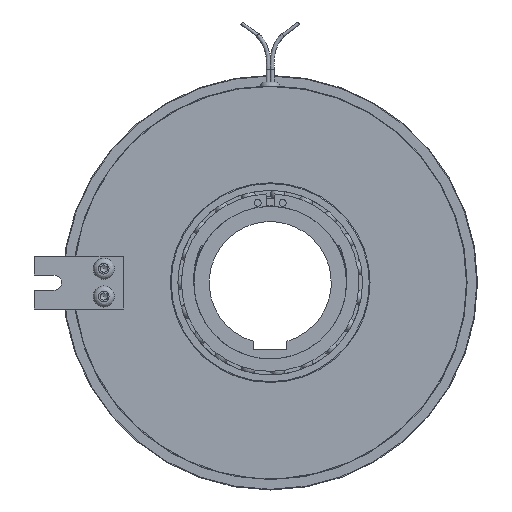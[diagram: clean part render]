
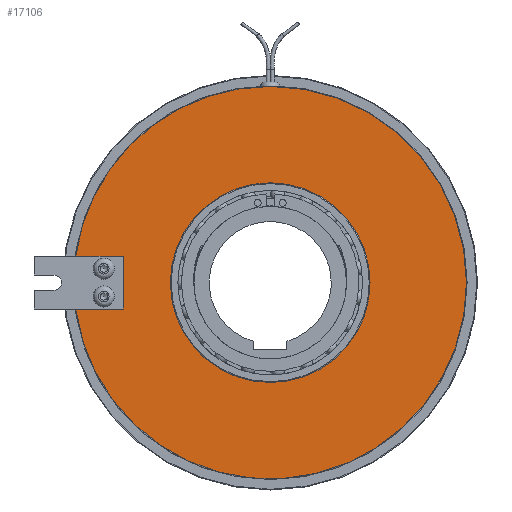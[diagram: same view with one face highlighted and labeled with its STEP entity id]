
A CAD part, left-side view. The second image highlights one B-rep face of the part: STEP entity #17106.
In plain terms, the highlighted planar face has unit normal (-1, 0, 0).
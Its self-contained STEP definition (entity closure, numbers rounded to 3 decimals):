
#1404=FACE_BOUND('',#3259,.T.);
#1577=PLANE('',#19032);
#2224=FACE_OUTER_BOUND('',#3258,.T.);
#3258=EDGE_LOOP('',(#14624,#14625,#14626,#14627,#14628,#14629));
#3259=EDGE_LOOP('',(#14630,#14631));
#3547=CIRCLE('',#17369,70.75);
#3550=CIRCLE('',#17372,70.75);
#4642=CIRCLE('',#19002,36.);
#4643=CIRCLE('',#19003,36.);
#4660=CIRCLE('',#19031,70.75);
#5176=LINE('',#33806,#5619);
#5193=LINE('',#33843,#5636);
#5196=LINE('',#33847,#5639);
#5619=VECTOR('',#22283,10.);
#5636=VECTOR('',#22316,10.);
#5639=VECTOR('',#22321,10.);
#5883=VERTEX_POINT('',#24663);
#5884=VERTEX_POINT('',#24665);
#5886=VERTEX_POINT('',#24669);
#5887=VERTEX_POINT('',#24671);
#6999=VERTEX_POINT('',#33805);
#7011=VERTEX_POINT('',#33841);
#7445=VERTEX_POINT('',#39016);
#7446=VERTEX_POINT('',#39017);
#7824=EDGE_CURVE('',#5884,#5883,#3547,.T.);
#7827=EDGE_CURVE('',#5887,#5886,#3550,.T.);
#9321=EDGE_CURVE('',#6999,#5884,#5176,.T.);
#9340=EDGE_CURVE('',#5886,#7011,#5193,.T.);
#9343=EDGE_CURVE('',#7011,#6999,#5196,.T.);
#9912=EDGE_CURVE('',#7445,#7446,#4642,.T.);
#9914=EDGE_CURVE('',#7446,#7445,#4643,.T.);
#9936=EDGE_CURVE('',#5883,#5887,#4660,.T.);
#14624=ORIENTED_EDGE('',*,*,#9321,.T.);
#14625=ORIENTED_EDGE('',*,*,#7824,.T.);
#14626=ORIENTED_EDGE('',*,*,#9936,.T.);
#14627=ORIENTED_EDGE('',*,*,#7827,.T.);
#14628=ORIENTED_EDGE('',*,*,#9340,.T.);
#14629=ORIENTED_EDGE('',*,*,#9343,.T.);
#14630=ORIENTED_EDGE('',*,*,#9912,.F.);
#14631=ORIENTED_EDGE('',*,*,#9914,.F.);
#17106=ADVANCED_FACE('',(#2224,#1404),#1577,.T.);
#17369=AXIS2_PLACEMENT_3D('',#24666,#19630,#19631);
#17372=AXIS2_PLACEMENT_3D('',#24672,#19636,#19637);
#19002=AXIS2_PLACEMENT_3D('',#39018,#23118,#23119);
#19003=AXIS2_PLACEMENT_3D('',#39020,#23121,#23122);
#19031=AXIS2_PLACEMENT_3D('',#39064,#23182,#23183);
#19032=AXIS2_PLACEMENT_3D('',#39065,#23184,#23185);
#19630=DIRECTION('center_axis',(-1.,0.,0.));
#19631=DIRECTION('ref_axis',(0.,1.,0.));
#19636=DIRECTION('center_axis',(-1.,0.,0.));
#19637=DIRECTION('ref_axis',(0.,1.,0.));
#22283=DIRECTION('',(0.,1.,0.));
#22316=DIRECTION('',(0.,-1.,0.));
#22321=DIRECTION('',(0.,0.,-1.));
#23118=DIRECTION('center_axis',(-1.,0.,0.));
#23119=DIRECTION('ref_axis',(0.,1.,0.));
#23121=DIRECTION('center_axis',(-1.,0.,0.));
#23122=DIRECTION('ref_axis',(0.,1.,0.));
#23182=DIRECTION('center_axis',(-1.,0.,0.));
#23183=DIRECTION('ref_axis',(0.,1.,0.));
#23184=DIRECTION('center_axis',(-1.,0.,0.));
#23185=DIRECTION('ref_axis',(0.,0.,
1.));
#24663=CARTESIAN_POINT('',(-42.3,-70.75,0.));
#24665=CARTESIAN_POINT('',(-42.3,70.109,-9.5));
#24666=CARTESIAN_POINT('Origin',(-42.3,0.,0.));
#24669=CARTESIAN_POINT('',(-42.3,70.109,9.5));
#24671=CARTESIAN_POINT('',(-42.3,0.,70.75));
#24672=CARTESIAN_POINT('Origin',(-42.3,0.,0.));
#33805=CARTESIAN_POINT('',(-42.3,53.,-9.5));
#33806=CARTESIAN_POINT('',(-42.3,53.188,-9.5));
#33841=CARTESIAN_POINT('',(-42.3,53.,9.5));
#33843=CARTESIAN_POINT('',(-42.3,69.188,9.5));
#33847=CARTESIAN_POINT('',(-42.3,53.,4.75));
#39016=CARTESIAN_POINT('',(-42.3,36.,0.));
#39017=CARTESIAN_POINT('',(-42.3,-36.,0.));
#39018=CARTESIAN_POINT('Origin',(-42.3,0.,0.));
#39020=CARTESIAN_POINT('Origin',(-42.3,0.,0.));
#39064=CARTESIAN_POINT('Origin',(-42.3,0.,0.));
#39065=CARTESIAN_POINT('Origin',(-42.3,53.375,0.));
